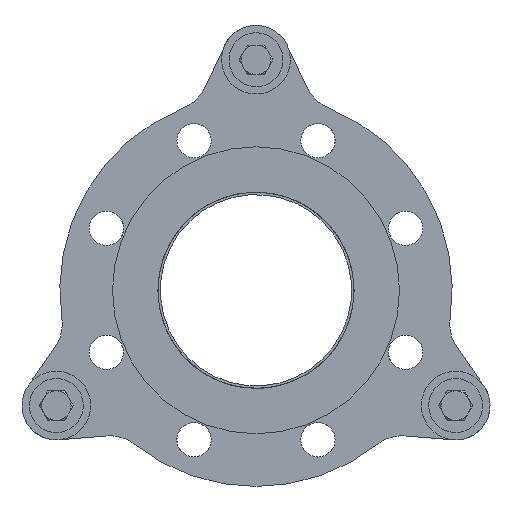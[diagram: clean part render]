
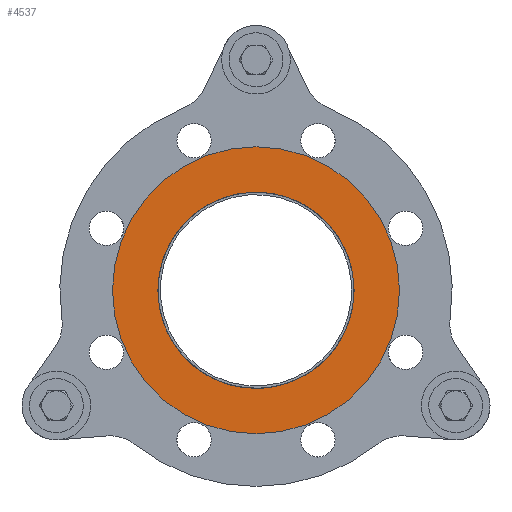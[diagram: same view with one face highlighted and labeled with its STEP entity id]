
A CAD part, front view. The second image highlights one B-rep face of the part: STEP entity #4537.
In plain terms, the highlighted planar face has unit normal (0, -1, 0).
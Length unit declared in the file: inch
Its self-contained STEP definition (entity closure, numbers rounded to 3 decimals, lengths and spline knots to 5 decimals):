
#480=PLANE('',#4957);
#656=FACE_BOUND('',#1263,.T.);
#889=FACE_OUTER_BOUND('',#1262,.T.);
#1262=EDGE_LOOP('',(#3166));
#1263=EDGE_LOOP('',(#3167));
#1799=CIRCLE('',#4953,2.5);
#1800=CIRCLE('',#4955,3.65625);
#2123=VERTEX_POINT('',#7090);
#2124=VERTEX_POINT('',#7093);
#2549=EDGE_CURVE('',#2123,#2123,#1799,.T.);
#2550=EDGE_CURVE('',#2124,#2124,#1800,.T.);
#3166=ORIENTED_EDGE('',*,*,#2550,.T.);
#3167=ORIENTED_EDGE('',*,*,#2549,.T.);
#4537=ADVANCED_FACE('',(#889,#656),#480,.T.);
#4953=AXIS2_PLACEMENT_3D('',#7091,#5732,#5733);
#4955=AXIS2_PLACEMENT_3D('',#7094,#5736,#5737);
#4957=AXIS2_PLACEMENT_3D('',#7097,#5740,#5741);
#5732=DIRECTION('center_axis',(0.,1.,0.));
#5733=DIRECTION('ref_axis',(-1.,0.,0.));
#5736=DIRECTION('center_axis',(0.,-1.,0.));
#5737=DIRECTION('ref_axis',(1.,0.,0.));
#5740=DIRECTION('center_axis',(0.,-1.,0.));
#5741=DIRECTION('ref_axis',(0.,0.,
1.));
#7090=CARTESIAN_POINT('',(-2.5,0.,0.));
#7091=CARTESIAN_POINT('Origin',(0.,0.,
0.));
#7093=CARTESIAN_POINT('',(-3.65625,0.,0.));
#7094=CARTESIAN_POINT('Origin',(0.,0.,
0.));
#7097=CARTESIAN_POINT('Origin',(0.,0.,
0.));
